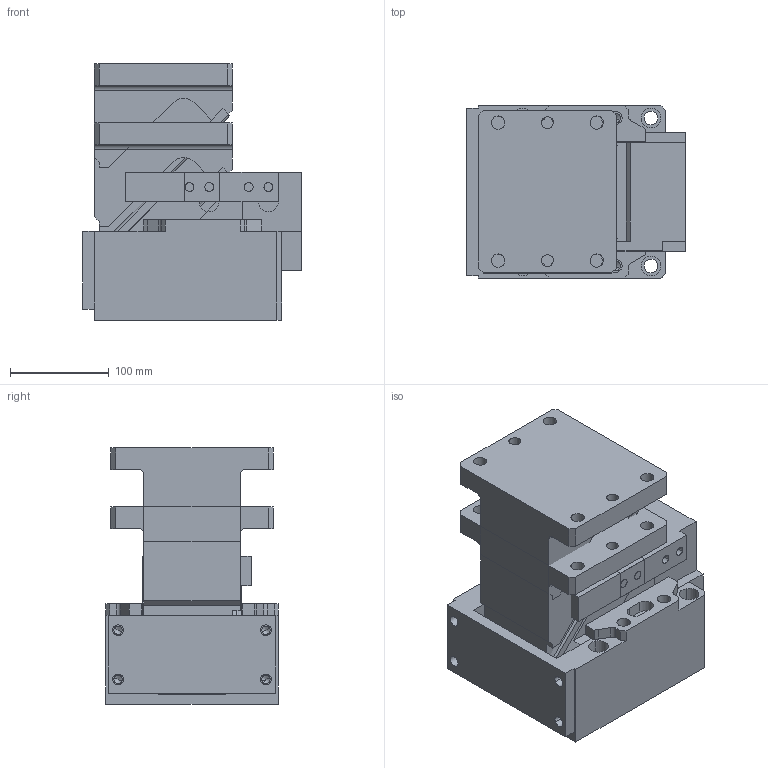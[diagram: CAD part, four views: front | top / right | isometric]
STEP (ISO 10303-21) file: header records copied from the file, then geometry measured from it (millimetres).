
FILE_DESCRIPTION(('CATIA V5 STEP','CAx-IF Rec.Pracs.--- Model Styling and Organization---1.4--- 2014-01-23','CAx-IF Rec.Pracs.---3D Tessellated Data Validation Properties---0.5---2014-09-14'),'2;1');
FILE_NAME('H:\_COMPRESS_2\2016.14.00.100.060.1.2__CM.stp','2020-11-18T12:50:38+00:00',('${USER}'),('AUDI AG, ${GROUP}'),'CATIA Version 5-6 Release 2018 SP3 HF27','CATIA V5 STEP AP242','none');
FILE_SCHEMA(('AP242_MANAGED_MODEL_BASED_3D_ENGINEERING_MIM_LF {1 0 10303 442 1 1 4}'));
Length unit declared in the file: millimetre
Products named in the file (1): 2016.14.00.100.060.1.2__CM
Bounding box: 222 x 175 x 260 mm (x, y, z)
Volume: 7698202.3 mm3; surface area: 646841.2 mm2
Topology: 4 solids, 6 shells, 686 faces, 1679 edges, 1050 vertices
Faces by surface type: plane 339, cylinder 269, cone 40, torus 32, sphere 4, bspline 2
Entity records: 19031 total; most frequent: CARTESIAN_POINT 3992, ORIENTED_EDGE 3280, DIRECTION 2532, EDGE_CURVE 1640, VERTEX_POINT 1046, AXIS2_PLACEMENT_3D 1028, VECTOR 1022, LINE 1022
